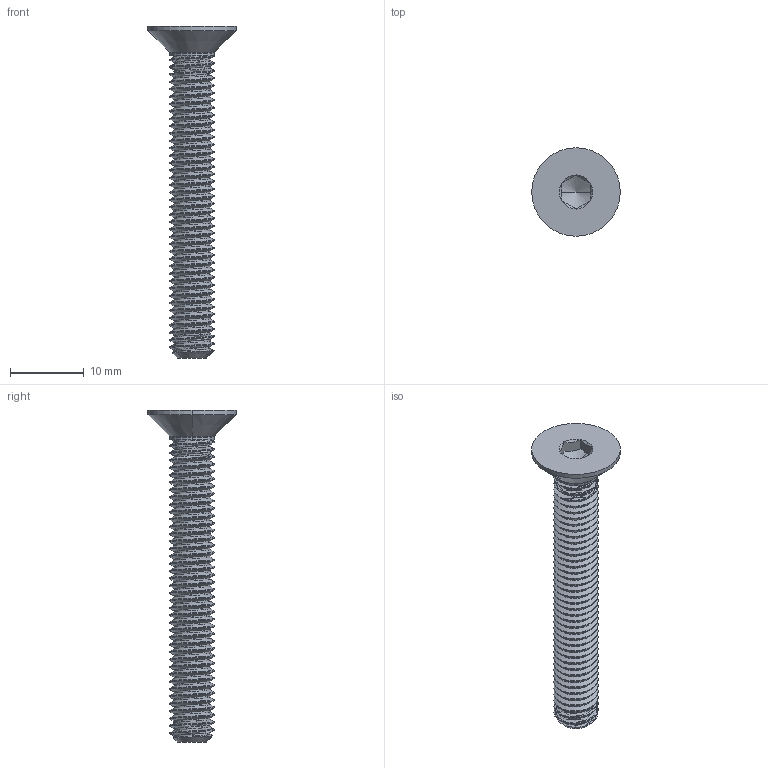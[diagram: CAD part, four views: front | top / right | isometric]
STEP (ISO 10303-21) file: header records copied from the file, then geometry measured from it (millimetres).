
FILE_DESCRIPTION (( 'STEP AP203' ), '1' );
FILE_NAME ('M6x45_DIN7991.STEP', '2025-11-14T11:06:26', ( '' ), ( '' ), 'SwSTEP 2.0', 'SolidWorks 2022', '' );
FILE_SCHEMA (( 'CONFIG_CONTROL_DESIGN' ));
Length unit declared in the file: millimetre
Products named in the file (1): M6x45_DIN7991
Bounding box: 12 x 12 x 45 mm (x, y, z)
Volume: 1182.8 mm3; surface area: 1480.4 mm2
Topology: 2 solids, 2 shells, 114 faces, 322 edges, 211 vertices
Faces by surface type: cylinder 85, cone 14, plane 10, bspline 3, torus 2
Entity records: 9986 total; most frequent: CARTESIAN_POINT 7498, ORIENTED_EDGE 640, DIRECTION 378, EDGE_CURVE 320, VERTEX_POINT 211, AXIS2_PLACEMENT_3D 134, EDGE_LOOP 115, ADVANCED_FACE 114
